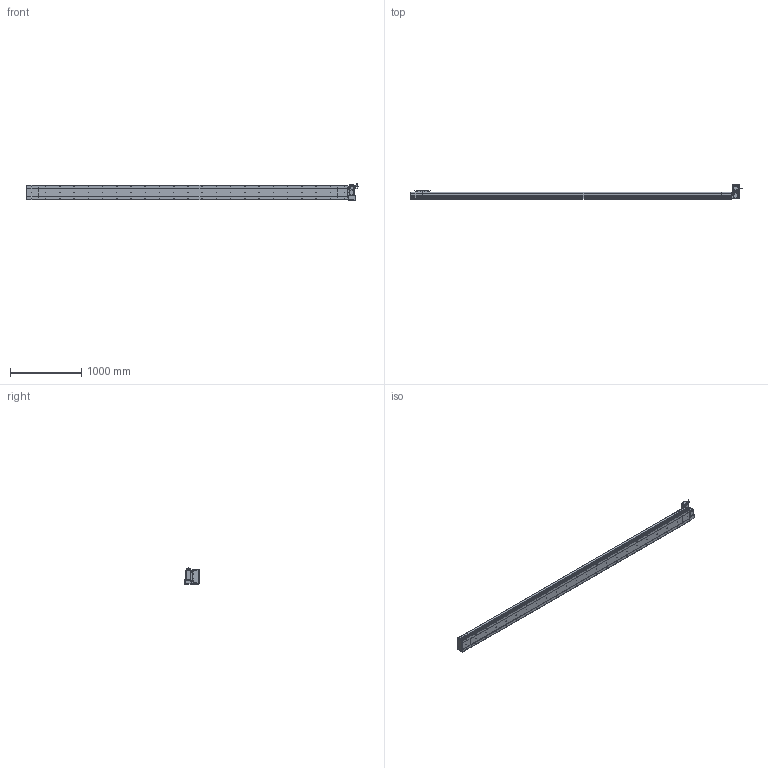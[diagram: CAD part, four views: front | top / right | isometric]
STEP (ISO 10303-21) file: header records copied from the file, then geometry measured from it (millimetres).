
FILE_DESCRIPTION (( 'STEP AP214' ), '1' );
FILE_NAME ('D20 CBH RT S4200.STEP', '2010-06-30T11:26:55', ( 'Conseil Régional Haute-Normandie' ), ( 'Conseil Régional Haute-Normandie' ), 'SwSTEP 2.0', 'SolidWorks 2010', '' );
FILE_SCHEMA (( 'AUTOMOTIVE_DESIGN' ));
Length unit declared in the file: millimetre
Products named in the file (31): Couvercle S4200_Default; Plaque De Serrage D20_Default; Corp Tail D20 RT_Default; Plaque De Serrage D20 RT_Default; Glissiere_Default; Couvercle RT_Default; Plaque de Bout Head D20 RT_Default; Corp Tail D20_Default; Tail D20_Default; D20 CBH RT S4200; Head RT_Default; ecrou_Default; Cache Support Moteur RT_Default; Support moteur RT_Default; Moteur motionking 90BLDC125A-640; avant 90BLDC125A-640; corps 90BLDC125A-640; codeur 90BLDC125-640; vis M5 L47_Default; vis M5 L30_Default; Plaque de Bout Tail D20_Default; Corp S4200_Default; Conecteur2_Default; vis M5 L15_Default; Conecteur_Default; Couvercle_Default; Corp D20 S4200_Default; Rondelle Cache D20 RT_Default; Chariot D20_Default; Support Chariot D20_Default
Assembly tree (68 placements, depth 4):
  D20 CBH RT S4200
    Chariot D20_Default
      vis M5 L15_Default  x8
      Glissiere_Default
      Chariot D20_Default
      Support Chariot D20_Default
    Corp D20 S4200_Default
      Corp S4200_Default
      Couvercle S4200_Default
    Head RT_Default
      Plaque de Bout Head D20 RT_Default
      vis M5 L47_Default  x4
      ecrou_Default  x4
      vis M5 L15_Default  x14
      Moteur motionking 90BLDC125A-640
        codeur 90BLDC125-640
        Conecteur2_Default
        avant 90BLDC125A-640
        corps 90BLDC125A-640
        Conecteur_Default
      Rondelle Cache D20 RT_Default  x3
      Couvercle RT_Default
      Cache Support Moteur RT_Default
      vis M5 L30_Default  x4
      Support moteur RT_Default
      Plaque De Serrage D20 RT_Default
      Corp Tail D20 RT_Default
    Tail D20_Default
      vis M5 L15_Default  x6
      Couvercle_Default
      Plaque de Bout Tail D20_Default
      Plaque De Serrage D20_Default
      Corp Tail D20_Default
Bounding box: 4664.45 x 206.5 x 229.7 mm (x, y, z)
Volume: 30823099 mm3; surface area: 5864442.8 mm2
Topology: 105 solids, 105 shells, 3916 faces, 9696 edges, 6298 vertices
Faces by surface type: plane 2161, bspline 806, cylinder 778, torus 95, cone 72, sphere 4
Entity records: 162062 total; most frequent: CARTESIAN_POINT 82742, ORIENTED_EDGE 15660, DIRECTION 12142, EDGE_CURVE 7830, VERTEX_POINT 5182, VECTOR 5002, LINE 5002, AXIS2_PLACEMENT_3D 3570
